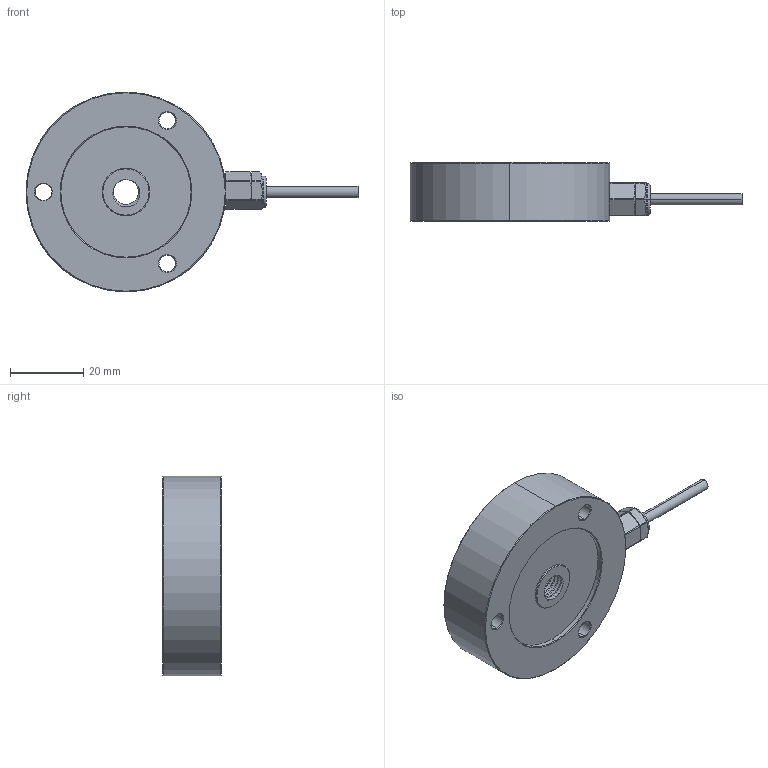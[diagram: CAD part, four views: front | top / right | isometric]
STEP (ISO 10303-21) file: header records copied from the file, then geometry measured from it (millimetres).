
FILE_DESCRIPTION (( 'STEP AP203' ), '1' );
FILE_NAME ('LCP02.STEP', '2024-07-16T04:59:12', ( '' ), ( '' ), 'SwSTEP 2.0', 'SolidWorks 2019', '' );
FILE_SCHEMA (( 'CONFIG_CONTROL_DESIGN' ));
Length unit declared in the file: millimetre
Products named in the file (1): LCP02
Bounding box: 90.5 x 16 x 54.5 mm (x, y, z)
Volume: 30808.2 mm3; surface area: 10325.9 mm2
Topology: 2 solids, 2 shells, 131 faces, 324 edges, 205 vertices
Faces by surface type: cylinder 66, cone 28, plane 25, torus 9, bspline 3
Entity records: 5838 total; most frequent: CARTESIAN_POINT 2774, ORIENTED_EDGE 648, DIRECTION 609, EDGE_CURVE 324, AXIS2_PLACEMENT_3D 242, VERTEX_POINT 205, EDGE_LOOP 147, FACE_OUTER_BOUND 131
